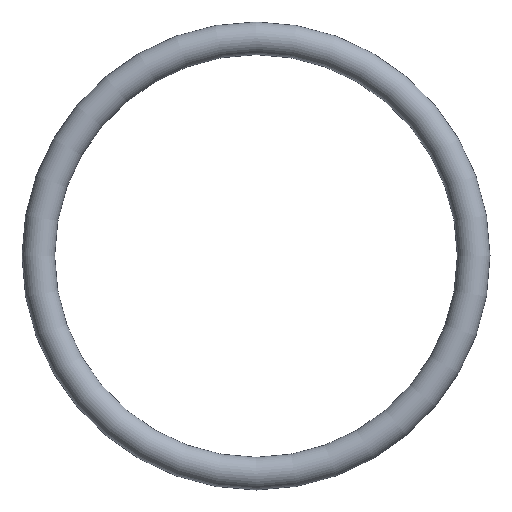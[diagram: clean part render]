
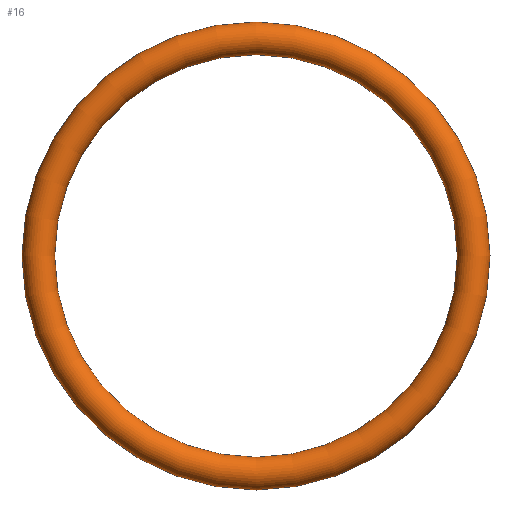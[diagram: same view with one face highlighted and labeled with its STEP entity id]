
A CAD part, front view. The second image highlights one B-rep face of the part: STEP entity #16.
In plain terms, the highlighted toroidal (fillet/blend) face has major radius 36.607 mm and minor radius 2.75 mm.
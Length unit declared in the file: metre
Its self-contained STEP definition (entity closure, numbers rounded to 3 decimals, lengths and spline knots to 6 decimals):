
#12=VERTEX_POINT('',#37);
#13=VERTEX_LOOP('',#12);
#14=FACE_BOUND('',#13,.T.);
#15=TOROIDAL_SURFACE('',#30,0.036607,0.00275);
#16=ADVANCED_FACE('',(#14),#15,.T.);
#30=AXIS2_PLACEMENT_3D('',#36,#33,#34);
#33=DIRECTION('',(0.,1.,0.));
#34=DIRECTION('',(0.,0.,1.));
#36=CARTESIAN_POINT('',(0.,0.004,0.));
#37=CARTESIAN_POINT('',(0.,0.004,0.033857));
